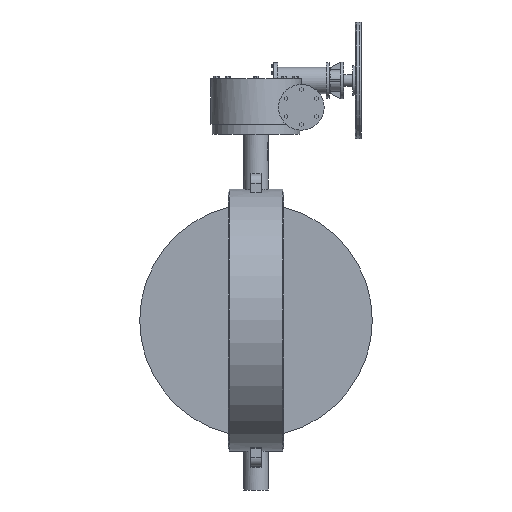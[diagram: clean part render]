
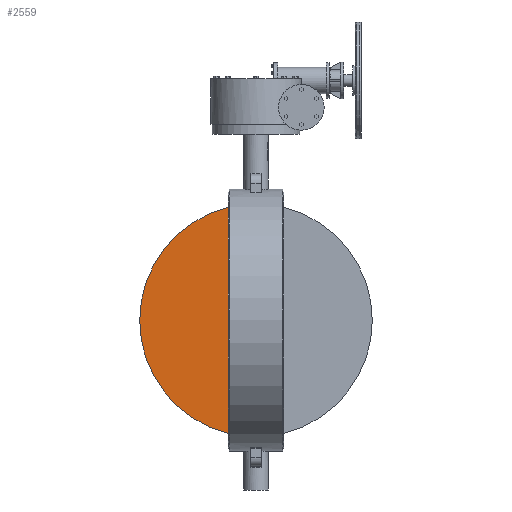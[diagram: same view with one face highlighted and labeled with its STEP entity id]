
A CAD part, front view. The second image highlights one B-rep face of the part: STEP entity #2559.
In plain terms, the highlighted planar face has unit normal (0, -1, 0).
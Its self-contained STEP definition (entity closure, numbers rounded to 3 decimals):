
#2559=ADVANCED_FACE('',(#7978),#7980,.T.);
#7978=FACE_BOUND('',#7979,.T.);
#7979=EDGE_LOOP('',(#12138,#12139));
#7980=PLANE('',#7981);
#7981=AXIS2_PLACEMENT_3D('',#7982,#7983,#7984);
#7982=CARTESIAN_POINT('',(0.,-10.,0.));
#7983=DIRECTION('',(0.,-1.,0.));
#7984=DIRECTION('',(0.,0.,1.));
#12138=ORIENTED_EDGE('',*,*,#14296,.T.);
#12139=ORIENTED_EDGE('',*,*,#14534,.T.);
#14296=EDGE_CURVE('',#16188,#16185,#16189,.F.);
#14534=EDGE_CURVE('',#16185,#16188,#16552,.T.);
#16185=VERTEX_POINT('',#21138);
#16188=VERTEX_POINT('',#21183);
#16189=LINE('',#21184,#21185);
#16552=CIRCLE('',#22702,397.7);
#21138=CARTESIAN_POINT('',(-30.923,-10.,396.496));
#21183=CARTESIAN_POINT('',(-30.923,-10.,-396.496));
#21184=CARTESIAN_POINT('',(-30.923,-10.,396.496));
#21185=VECTOR('',#21186,1.);
#21186=DIRECTION('',(0.,0.,-1.));
#22702=AXIS2_PLACEMENT_3D('',#22703,#22704,#22705);
#22703=CARTESIAN_POINT('',(0.,-10.,0.));
#22704=DIRECTION('',(0.,-1.,0.));
#22705=DIRECTION('',(-0.078,0.,0.997));
